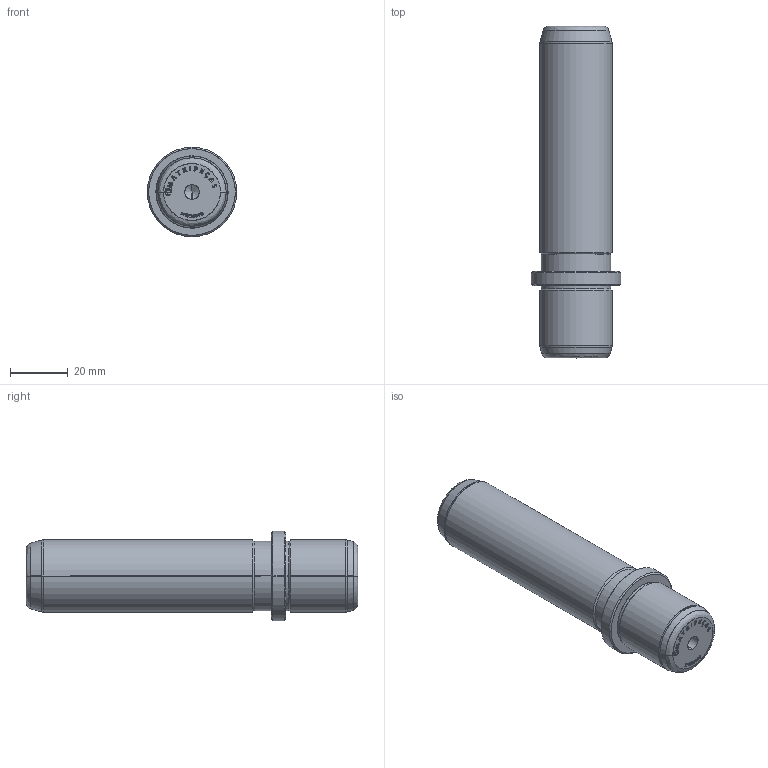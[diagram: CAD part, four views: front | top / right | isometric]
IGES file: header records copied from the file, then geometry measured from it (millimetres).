
Start section: SolidWorks IGES file using analytic representation for surfaces
Global section: file name: D:\Cleonir_arquivos\MT_15_07\Pinos Desmontáveis\PFG25090.igs; native system: SolidWorks 2013; preprocessor: SolidWorks 2013; author: Cleonir; date: 130730.162327; units: millimetre
Bounding box: 31 x 115 x 31 mm (x, y, z)
Surface area: 10926.3 mm2 (no closed solid volume)
Topology: 0 solids, 0 shells, 322 faces, 3698 edges, 3694 vertices
Faces by surface type: bspline 277, revolution 45
